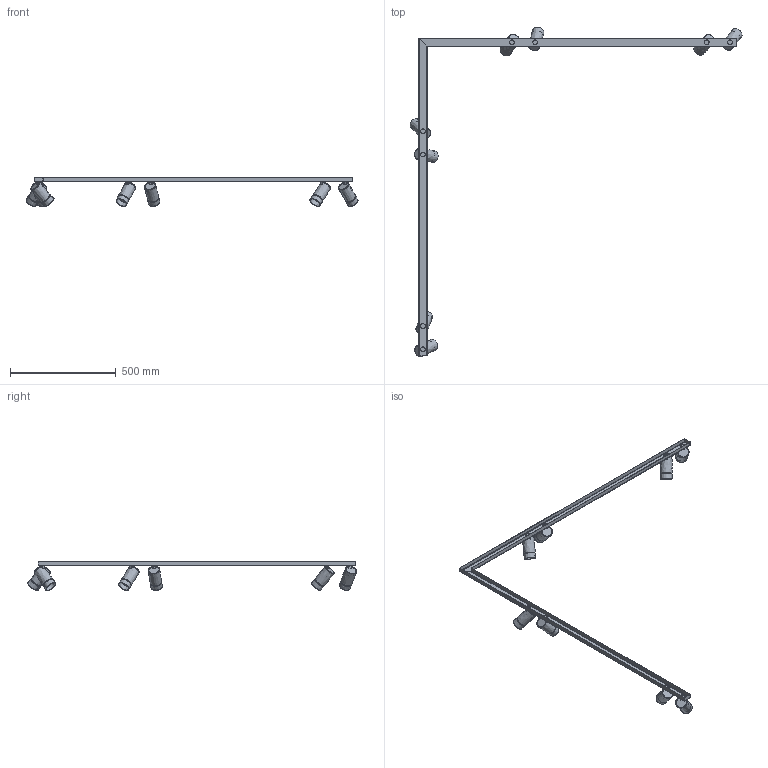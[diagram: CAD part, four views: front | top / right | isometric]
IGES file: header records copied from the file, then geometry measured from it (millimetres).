
Start section: SolidWorks IGES file using NURBS representation for surfaces
Global section: file name: Z:\Modele 3D_WWW\_KOLEKCJE_WWW\MONO\MONO-CORNER\7751\MONO-CORNER-VIII-2X150-7751.IGS; native system: SolidWorks 2021; preprocessor: SolidWorks 2021; author: gabriela.tworek; date: 220120.091610; units: millimetre
Bounding box: 1568.02 x 1554.88 x 135.98 mm (x, y, z)
Surface area: 826205.7 mm2 (no closed solid volume)
Topology: 0 solids, 0 shells, 394 faces, 2372 edges, 2332 vertices
Faces by surface type: bspline 394
